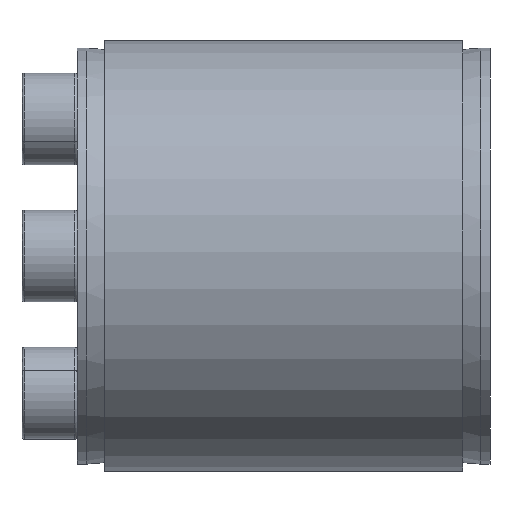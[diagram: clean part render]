
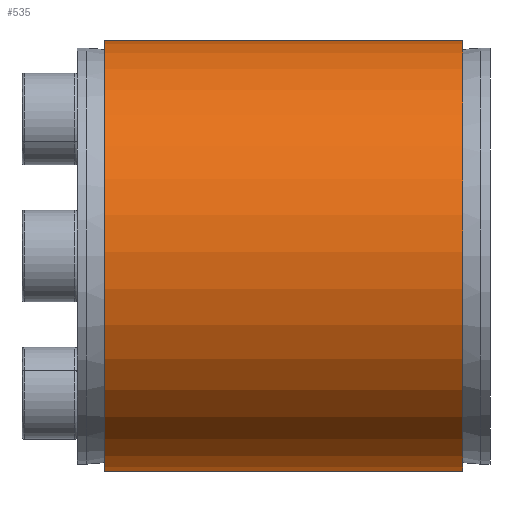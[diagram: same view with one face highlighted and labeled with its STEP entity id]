
A CAD part, front view. The second image highlights one B-rep face of the part: STEP entity #535.
In plain terms, the highlighted cylindrical face has radius 23.5 mm (diameter 47 mm), a partial arc.
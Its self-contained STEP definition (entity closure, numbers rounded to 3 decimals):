
#271 = DIRECTION ( 'NONE',  ( 0., 0., 1. ) ) ;
#333 = VERTEX_POINT ( 'NONE', #1445 ) ;
#423 = CARTESIAN_POINT ( 'NONE',  ( -43.29, -0.5, 0. ) ) ;
#535 = ADVANCED_FACE ( 'NONE', ( #3879 ), #1013, .T. ) ;
#761 = DIRECTION ( 'NONE',  ( -1., 0., 0. ) ) ;
#1013 = CYLINDRICAL_SURFACE ( 'NONE', #4955, 23.5 ) ;
#1136 = EDGE_CURVE ( 'NONE', #5449, #1893, #3400, .T. ) ;
#1336 = CARTESIAN_POINT ( 'NONE',  ( -43.29, -1.5, -23.479 ) ) ;
#1383 = DIRECTION ( 'NONE',  ( 1., 0., 0. ) ) ;
#1445 = CARTESIAN_POINT ( 'NONE',  ( 21.732, -0.5, 23.5 ) ) ;
#1538 = LINE ( 'NONE', #3191, #1752 ) ;
#1664 = CARTESIAN_POINT ( 'NONE',  ( -17.268, -0.5, 23.5 ) ) ;
#1752 = VECTOR ( 'NONE', #2188, 1000. ) ;
#1893 = VERTEX_POINT ( 'NONE', #4753 ) ;
#1978 = ORIENTED_EDGE ( 'NONE', *, *, #2752, .T. ) ;
#2157 = AXIS2_PLACEMENT_3D ( 'NONE', #2780, #761, #271 ) ;
#2188 = DIRECTION ( 'NONE',  ( -1., 0., 0. ) ) ;
#2458 = DIRECTION ( 'NONE',  ( 0., 0., 1. ) ) ;
#2510 = CARTESIAN_POINT ( 'NONE',  ( -17.268, -1.5, -23.479 ) ) ;
#2618 = AXIS2_PLACEMENT_3D ( 'NONE', #2680, #4880, #2458 ) ;
#2680 = CARTESIAN_POINT ( 'NONE',  ( -17.268, -0.5, 0. ) ) ;
#2752 = EDGE_CURVE ( 'NONE', #333, #5337, #1538, .T. ) ;
#2780 = CARTESIAN_POINT ( 'NONE',  ( 21.732, -0.5, 0. ) ) ;
#3102 = CIRCLE ( 'NONE', #2157, 23.5 ) ;
#3191 = CARTESIAN_POINT ( 'NONE',  ( -43.29, -0.5, 23.5 ) ) ;
#3310 = VECTOR ( 'NONE', #1383, 1000. ) ;
#3400 = LINE ( 'NONE', #1336, #3310 ) ;
#3490 = ORIENTED_EDGE ( 'NONE', *, *, #1136, .T. ) ;
#3879 = FACE_OUTER_BOUND ( 'NONE', #5010, .T. ) ;
#4029 = CIRCLE ( 'NONE', #2618, 23.5 ) ;
#4043 = ORIENTED_EDGE ( 'NONE', *, *, #4668, .F. ) ;
#4330 = DIRECTION ( 'NONE',  ( 0., 0., 1. ) ) ;
#4668 = EDGE_CURVE ( 'NONE', #5449, #5337, #4029, .T. ) ;
#4753 = CARTESIAN_POINT ( 'NONE',  ( 21.732, -1.5, -23.479 ) ) ;
#4880 = DIRECTION ( 'NONE',  ( -1., 0., 0. ) ) ;
#4955 = AXIS2_PLACEMENT_3D ( 'NONE', #423, #5230, #4330 ) ;
#5010 = EDGE_LOOP ( 'NONE', ( #5405, #1978, #4043, #3490 ) ) ;
#5205 = EDGE_CURVE ( 'NONE', #1893, #333, #3102, .T. ) ;
#5230 = DIRECTION ( 'NONE',  ( -1., 0., 0. ) ) ;
#5337 = VERTEX_POINT ( 'NONE', #1664 ) ;
#5405 = ORIENTED_EDGE ( 'NONE', *, *, #5205, .T. ) ;
#5449 = VERTEX_POINT ( 'NONE', #2510 ) ;
